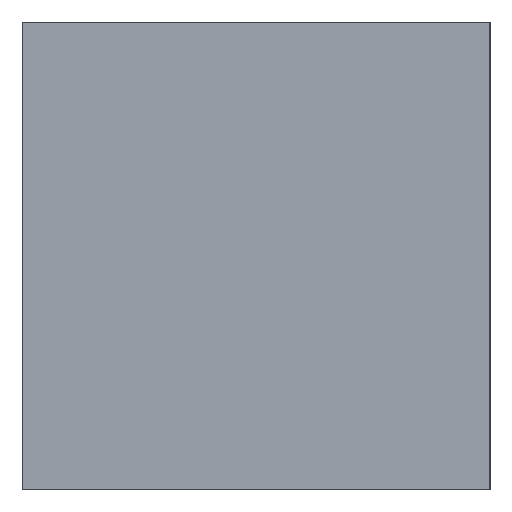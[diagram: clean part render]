
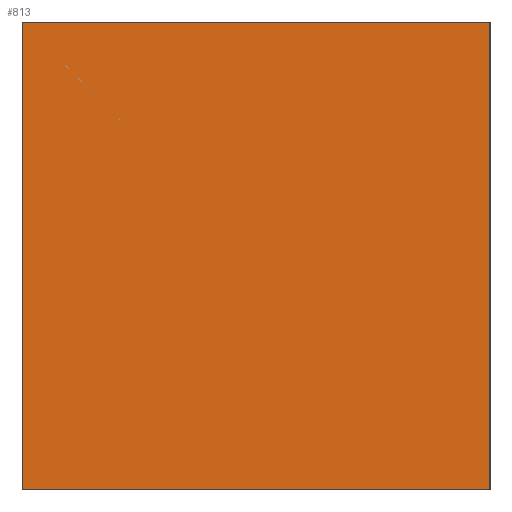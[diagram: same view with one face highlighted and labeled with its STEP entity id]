
A CAD part, left-side view. The second image highlights one B-rep face of the part: STEP entity #813.
In plain terms, the highlighted planar face has unit normal (-1, 0, 0).
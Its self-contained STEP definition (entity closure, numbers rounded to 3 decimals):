
#679=CARTESIAN_POINT('',(-1.854,-1.397,0.0));
#678=VERTEX_POINT('',#679);
#697=CARTESIAN_POINT('',(-1.854,-1.397,2.794));
#696=VERTEX_POINT('',#697);
#705=EDGE_CURVE('',#678,#696,#710,.T.);
#710=LINE('',#679,#712);
#712=VECTOR('',#713,2.794);
#713=DIRECTION('',(0.0,0.0,1.0));
#775=CARTESIAN_POINT('',(-1.854,1.397,0.0));
#774=VERTEX_POINT('',#775);
#785=CARTESIAN_POINT('',(-1.854,1.397,2.794));
#784=VERTEX_POINT('',#785);
#783=EDGE_CURVE('',#784,#774,#788,.T.);
#788=LINE('',#785,#790);
#790=VECTOR('',#791,2.794);
#791=DIRECTION('',(0.0,0.0,-1.0));
#813=ADVANCED_FACE('',(#819),#814,.T.);
#814=PLANE('',#815);
#815=AXIS2_PLACEMENT_3D('',#816,#817,#818);
#816=CARTESIAN_POINT('',(-1.854,1.397,0.0));
#817=DIRECTION('',(-1.0,0.0,0.0));
#818=DIRECTION('',(0.,0.,1.));
#819=FACE_OUTER_BOUND('',#820,.T.);
#820=EDGE_LOOP('',(#821,#831,#841,#851));
#822=EDGE_CURVE('',#678,#774,#827,.T.);
#827=LINE('',#679,#829);
#829=VECTOR('',#830,2.794);
#830=DIRECTION('',(0.0,1.0,0.0));
#821=ORIENTED_EDGE('',*,*,#822,.F.);
#831=ORIENTED_EDGE('',*,*,#705,.T.);
#842=EDGE_CURVE('',#784,#696,#847,.T.);
#847=LINE('',#785,#849);
#849=VECTOR('',#850,2.794);
#850=DIRECTION('',(0.0,-1.0,0.0));
#841=ORIENTED_EDGE('',*,*,#842,.F.);
#851=ORIENTED_EDGE('',*,*,#783,.T.);
